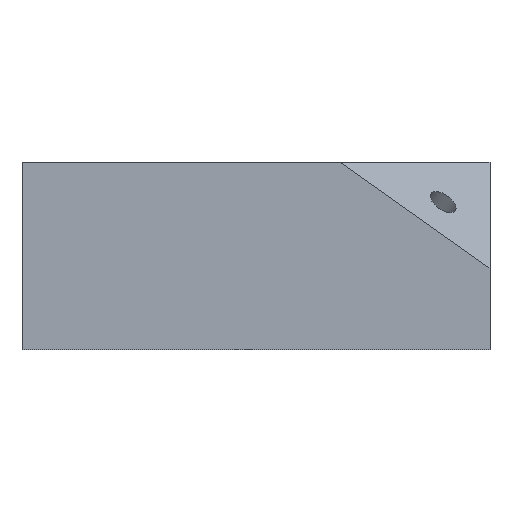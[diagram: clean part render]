
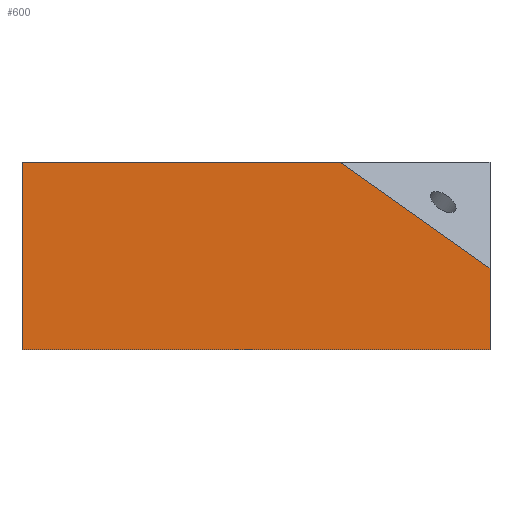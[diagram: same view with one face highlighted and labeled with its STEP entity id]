
A CAD part, front view. The second image highlights one B-rep face of the part: STEP entity #600.
In plain terms, the highlighted planar face has unit normal (0, -1, 0) as drawn and (-1, 0, 0) by its records, which use the part's own axes.
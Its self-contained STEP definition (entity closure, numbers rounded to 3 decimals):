
#600=ADVANCED_FACE('',(#913),#813,.T.);
#813=PLANE('',#3904);
#913=FACE_OUTER_BOUND('',#1102,.T.);
#1102=EDGE_LOOP('',(#1623,#1624,#1625,#1626,#1627));
#1623=ORIENTED_EDGE('',*,*,#2858,.T.);
#1624=ORIENTED_EDGE('',*,*,#2952,.T.);
#1625=ORIENTED_EDGE('',*,*,#2897,.T.);
#1626=ORIENTED_EDGE('',*,*,#2917,.F.);
#1627=ORIENTED_EDGE('',*,*,#2819,.T.);
#2441=VERTEX_POINT('',#5641);
#2442=VERTEX_POINT('',#5643);
#2479=VERTEX_POINT('',#5720);
#2517=VERTEX_POINT('',#5798);
#2518=VERTEX_POINT('',#5800);
#2819=EDGE_CURVE('',#2442,#2441,#3278,.T.);
#2858=EDGE_CURVE('',#2441,#2479,#3296,.T.);
#2897=EDGE_CURVE('',#2518,#2517,#3316,.T.);
#2917=EDGE_CURVE('',#2442,#2517,#3333,.T.);
#2952=EDGE_CURVE('',#2479,#2518,#3350,.T.);
#3278=LINE('',#5642,#3556);
#3296=LINE('',#5721,#3574);
#3316=LINE('',#5799,#3594);
#3333=LINE('',#5851,#3611);
#3350=LINE('',#5934,#3628);
#3556=VECTOR('',#4333,1.);
#3574=VECTOR('',#4397,1.);
#3594=VECTOR('',#4457,1.);
#3611=VECTOR('',#4480,1.);
#3628=VECTOR('',#4537,1.);
#3904=AXIS2_PLACEMENT_3D('',#5935,#4538,#4539);
#4333=DIRECTION('',(0.,-1.,0.));
#4397=DIRECTION('',(0.,0.,1.));
#4457=DIRECTION('',(0.,1.,0.));
#4480=DIRECTION('',(0.,0.,1.));
#4537=DIRECTION('',(0.,0.816,0.577));
#4538=DIRECTION('',(-1.,0.,0.));
#4539=DIRECTION('',(0.,0.,1.));
#5641=CARTESIAN_POINT('',(0.,0.,0.));
#5642=CARTESIAN_POINT('',(0.,62.5,0.));
#5643=CARTESIAN_POINT('',(0.,125.,0.));
#5720=CARTESIAN_POINT('',(0.,0.,21.716));
#5721=CARTESIAN_POINT('',(0.,0.,0.));
#5798=CARTESIAN_POINT('',(0.,125.,50.));
#5799=CARTESIAN_POINT('',(0.,62.5,50.));
#5800=CARTESIAN_POINT('',(0.,40.,50.));
#5851=CARTESIAN_POINT('',(0.,125.,0.));
#5934=CARTESIAN_POINT('',(0.,31.43,43.94));
#5935=CARTESIAN_POINT('',(0.,62.5,0.));
